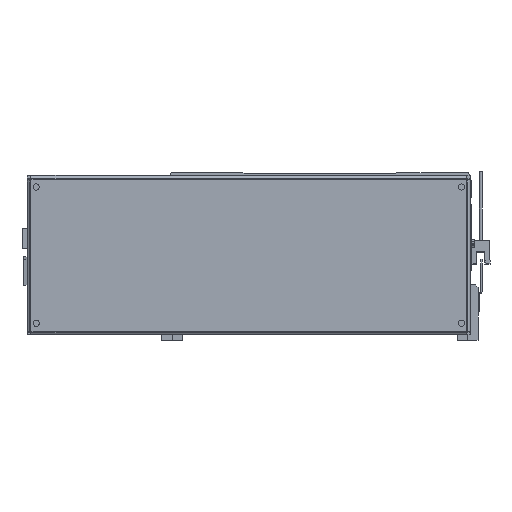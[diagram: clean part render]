
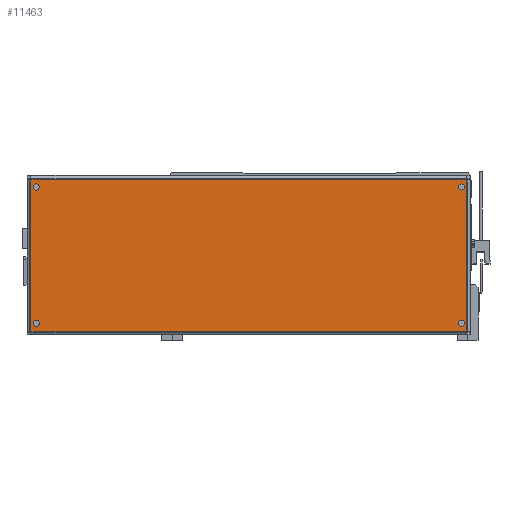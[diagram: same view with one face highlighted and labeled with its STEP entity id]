
A CAD part, front view. The second image highlights one B-rep face of the part: STEP entity #11463.
In plain terms, the highlighted planar face has unit normal (0, -1, 0) as drawn and (0, 0, 1) by its records, which use the part's own axes.
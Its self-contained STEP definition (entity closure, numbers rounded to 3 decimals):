
#630 = CIRCLE ( 'NONE', #32046, 2.25 ) ;
#825 = CARTESIAN_POINT ( 'NONE',  ( 208.521, 32.63, 72. ) ) ;
#1073 = CARTESIAN_POINT ( 'NONE',  ( 210.771, 32.63, 72. ) ) ;
#1141 = VERTEX_POINT ( 'NONE', #4359 ) ;
#1593 = AXIS2_PLACEMENT_3D ( 'NONE', #27054, #24833, #24732 ) ;
#1683 = FACE_OUTER_BOUND ( 'NONE', #18004, .T. ) ;
#2200 = VERTEX_POINT ( 'NONE', #9517 ) ;
#2246 = EDGE_LOOP ( 'NONE', ( #28018, #9830 ) ) ;
#2463 = DIRECTION ( 'NONE',  ( 1., 0., 0. ) ) ;
#2609 = CIRCLE ( 'NONE', #12776, 2.25 ) ;
#3059 = VERTEX_POINT ( 'NONE', #20669 ) ;
#3114 = EDGE_CURVE ( 'NONE', #2200, #5553, #10181, .T. ) ;
#3616 = CIRCLE ( 'NONE', #24086, 2.25 ) ;
#4034 = FACE_BOUND ( 'NONE', #2246, .T. ) ;
#4143 = ORIENTED_EDGE ( 'NONE', *, *, #22874, .T. ) ;
#4359 = CARTESIAN_POINT ( 'NONE',  ( 214.535, 38.394, 72. ) ) ;
#4426 = EDGE_LOOP ( 'NONE', ( #20353, #11591 ) ) ;
#4502 = VECTOR ( 'NONE', #8187, 1000. ) ;
#4616 = CIRCLE ( 'NONE', #20849, 2.25 ) ;
#5001 = LINE ( 'NONE', #17712, #10855 ) ;
#5008 = EDGE_CURVE ( 'NONE', #32299, #25818, #2609, .T. ) ;
#5553 = VERTEX_POINT ( 'NONE', #31153 ) ;
#6646 = CARTESIAN_POINT ( 'NONE',  ( -98.229, -66.37, 72. ) ) ;
#7063 = ORIENTED_EDGE ( 'NONE', *, *, #31618, .F. ) ;
#7268 = CARTESIAN_POINT ( 'NONE',  ( -98.229, 32.63, 72. ) ) ;
#7421 = AXIS2_PLACEMENT_3D ( 'NONE', #7554, #9862, #12680 ) ;
#7554 = CARTESIAN_POINT ( 'NONE',  ( -98.229, 32.63, 72. ) ) ;
#7770 = AXIS2_PLACEMENT_3D ( 'NONE', #6646, #19250, #23997 ) ;
#8187 = DIRECTION ( 'NONE',  ( 1., 0., 0. ) ) ;
#8438 = DIRECTION ( 'NONE',  ( 1., 0., 0. ) ) ;
#9088 = DIRECTION ( 'NONE',  ( 1., 0., 0. ) ) ;
#9404 = DIRECTION ( 'NONE',  ( 0., 0., 1. ) ) ;
#9517 = CARTESIAN_POINT ( 'NONE',  ( 208.521, -66.37, 72. ) ) ;
#9830 = ORIENTED_EDGE ( 'NONE', *, *, #24613, .F. ) ;
#9850 = EDGE_CURVE ( 'NONE', #3059, #12315, #630, .T. ) ;
#9862 = DIRECTION ( 'NONE',  ( 0., 0., 1. ) ) ;
#9908 = DIRECTION ( 'NONE',  ( 0., 0., 1. ) ) ;
#10181 = CIRCLE ( 'NONE', #27748, 2.25 ) ;
#10207 = CARTESIAN_POINT ( 'NONE',  ( -100.479, 32.63, 72. ) ) ;
#10855 = VECTOR ( 'NONE', #12535, 1000. ) ;
#11171 = ORIENTED_EDGE ( 'NONE', *, *, #15843, .T. ) ;
#11217 = DIRECTION ( 'NONE',  ( 0., 0., 1. ) ) ;
#11463 = ADVANCED_FACE ( 'NONE', ( #19740, #4034, #13048, #15790, #1683 ), #14356, .T. ) ;
#11591 = ORIENTED_EDGE ( 'NONE', *, *, #24830, .F. ) ;
#11883 = CARTESIAN_POINT ( 'NONE',  ( 214.564, 38.394, 72. ) ) ;
#11915 = CIRCLE ( 'NONE', #16451, 2.25 ) ;
#11970 = EDGE_CURVE ( 'NONE', #5553, #2200, #3616, .T. ) ;
#12109 = DIRECTION ( 'NONE',  ( 1., 0., 0. ) ) ;
#12315 = VERTEX_POINT ( 'NONE', #825 ) ;
#12535 = DIRECTION ( 'NONE',  ( 0., -1., 0. ) ) ;
#12680 = DIRECTION ( 'NONE',  ( 1., 0., 0. ) ) ;
#12776 = AXIS2_PLACEMENT_3D ( 'NONE', #7268, #9908, #2463 ) ;
#12858 = ORIENTED_EDGE ( 'NONE', *, *, #11970, .F. ) ;
#13048 = FACE_BOUND ( 'NONE', #4426, .T. ) ;
#13325 = LINE ( 'NONE', #24860, #21210 ) ;
#13387 = CARTESIAN_POINT ( 'NONE',  ( -101.992, -72.133, 72. ) ) ;
#13740 = ORIENTED_EDGE ( 'NONE', *, *, #19426, .T. ) ;
#13980 = DIRECTION ( 'NONE',  ( 1., 0., 0. ) ) ;
#13988 = DIRECTION ( 'NONE',  ( 0., 0., 1. ) ) ;
#14356 = PLANE ( 'NONE',  #1593 ) ;
#14394 = CIRCLE ( 'NONE', #7421, 2.25 ) ;
#14402 = CARTESIAN_POINT ( 'NONE',  ( 210.771, 32.63, 72. ) ) ;
#15048 = VERTEX_POINT ( 'NONE', #18376 ) ;
#15498 = EDGE_LOOP ( 'NONE', ( #12858, #28107 ) ) ;
#15511 = CARTESIAN_POINT ( 'NONE',  ( -102.022, -72.133, 72. ) ) ;
#15790 = FACE_BOUND ( 'NONE', #26789, .T. ) ;
#15843 = EDGE_CURVE ( 'NONE', #1141, #15048, #25846, .T. ) ;
#16420 = DIRECTION ( 'NONE',  ( 0., 0., 1. ) ) ;
#16451 = AXIS2_PLACEMENT_3D ( 'NONE', #21271, #26348, #8438 ) ;
#17225 = CIRCLE ( 'NONE', #7770, 2.25 ) ;
#17712 = CARTESIAN_POINT ( 'NONE',  ( -101.992, 38.423, 72. ) ) ;
#18004 = EDGE_LOOP ( 'NONE', ( #11171, #22599, #4143, #13740 ) ) ;
#18376 = CARTESIAN_POINT ( 'NONE',  ( -101.992, 38.394, 72. ) ) ;
#19250 = DIRECTION ( 'NONE',  ( 0., 0., 1. ) ) ;
#19406 = LINE ( 'NONE', #15511, #4502 ) ;
#19426 = EDGE_CURVE ( 'NONE', #24701, #1141, #13325, .T. ) ;
#19740 = FACE_BOUND ( 'NONE', #15498, .T. ) ;
#20353 = ORIENTED_EDGE ( 'NONE', *, *, #5008, .F. ) ;
#20669 = CARTESIAN_POINT ( 'NONE',  ( 213.021, 32.63, 72. ) ) ;
#20831 = EDGE_CURVE ( 'NONE', #28800, #31867, #17225, .T. ) ;
#20849 = AXIS2_PLACEMENT_3D ( 'NONE', #1073, #16420, #13980 ) ;
#21210 = VECTOR ( 'NONE', #24749, 1000. ) ;
#21271 = CARTESIAN_POINT ( 'NONE',  ( -98.229, -66.37, 72. ) ) ;
#21714 = CARTESIAN_POINT ( 'NONE',  ( 210.771, -66.37, 72. ) ) ;
#21905 = EDGE_CURVE ( 'NONE', #15048, #30020, #5001, .T. ) ;
#21929 = CARTESIAN_POINT ( 'NONE',  ( 214.535, -72.133, 72. ) ) ;
#22007 = CARTESIAN_POINT ( 'NONE',  ( -95.979, -66.37, 72. ) ) ;
#22599 = ORIENTED_EDGE ( 'NONE', *, *, #21905, .T. ) ;
#22874 = EDGE_CURVE ( 'NONE', #30020, #24701, #19406, .T. ) ;
#23102 = VECTOR ( 'NONE', #29508, 1000. ) ;
#23409 = CARTESIAN_POINT ( 'NONE',  ( -95.979, 32.63, 72. ) ) ;
#23589 = CARTESIAN_POINT ( 'NONE',  ( -100.479, -66.37, 72. ) ) ;
#23997 = DIRECTION ( 'NONE',  ( 1., 0., 0. ) ) ;
#24086 = AXIS2_PLACEMENT_3D ( 'NONE', #21714, #13988, #9088 ) ;
#24613 = EDGE_CURVE ( 'NONE', #12315, #3059, #4616, .T. ) ;
#24701 = VERTEX_POINT ( 'NONE', #21929 ) ;
#24732 = DIRECTION ( 'NONE',  ( 1., 0., 0. ) ) ;
#24749 = DIRECTION ( 'NONE',  ( 0., 1., 0. ) ) ;
#24830 = EDGE_CURVE ( 'NONE', #25818, #32299, #14394, .T. ) ;
#24833 = DIRECTION ( 'NONE',  ( 0., 0., 1. ) ) ;
#24860 = CARTESIAN_POINT ( 'NONE',  ( 214.535, -72.163, 72. ) ) ;
#25818 = VERTEX_POINT ( 'NONE', #10207 ) ;
#25846 = LINE ( 'NONE', #11883, #23102 ) ;
#26297 = DIRECTION ( 'NONE',  ( 1., 0., 0. ) ) ;
#26348 = DIRECTION ( 'NONE',  ( 0., 0., 1. ) ) ;
#26789 = EDGE_LOOP ( 'NONE', ( #7063, #30683 ) ) ;
#27054 = CARTESIAN_POINT ( 'NONE',  ( -76.079, -40.83, 72. ) ) ;
#27748 = AXIS2_PLACEMENT_3D ( 'NONE', #31669, #11217, #26297 ) ;
#28018 = ORIENTED_EDGE ( 'NONE', *, *, #9850, .F. ) ;
#28107 = ORIENTED_EDGE ( 'NONE', *, *, #3114, .F. ) ;
#28800 = VERTEX_POINT ( 'NONE', #23589 ) ;
#29508 = DIRECTION ( 'NONE',  ( -1., 0., 0. ) ) ;
#30020 = VERTEX_POINT ( 'NONE', #13387 ) ;
#30683 = ORIENTED_EDGE ( 'NONE', *, *, #20831, .F. ) ;
#31153 = CARTESIAN_POINT ( 'NONE',  ( 213.021, -66.37, 72. ) ) ;
#31618 = EDGE_CURVE ( 'NONE', #31867, #28800, #11915, .T. ) ;
#31669 = CARTESIAN_POINT ( 'NONE',  ( 210.771, -66.37, 72. ) ) ;
#31867 = VERTEX_POINT ( 'NONE', #22007 ) ;
#32046 = AXIS2_PLACEMENT_3D ( 'NONE', #14402, #9404, #12109 ) ;
#32299 = VERTEX_POINT ( 'NONE', #23409 ) ;
